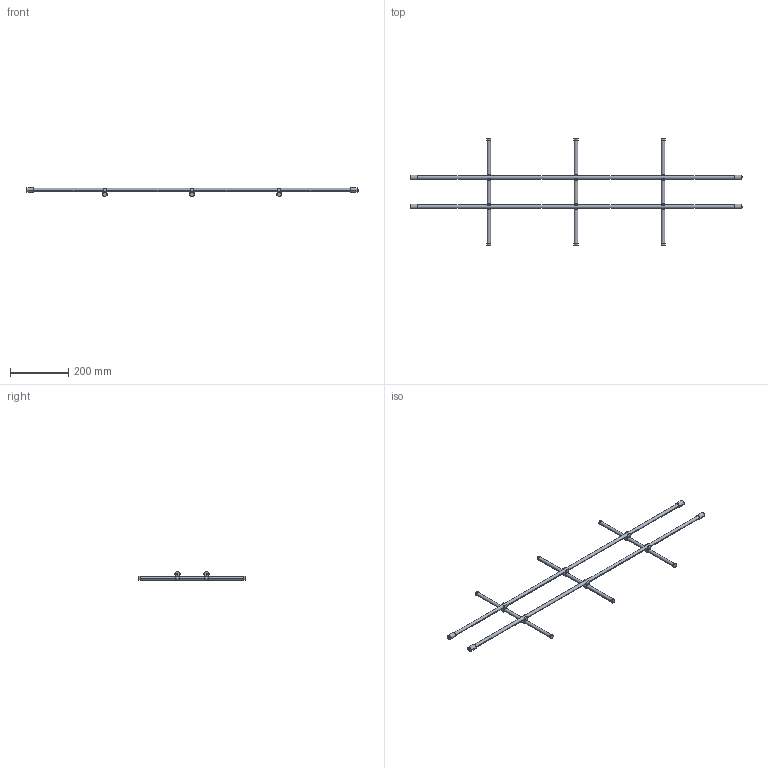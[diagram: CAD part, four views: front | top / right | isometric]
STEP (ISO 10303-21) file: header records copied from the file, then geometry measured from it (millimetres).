
FILE_DESCRIPTION (( 'STEP AP214' ), '1' );
FILE_NAME ('Magic-Classic_NL-400-KAB 1200.step', '2010-09-16T12:49:32', ( 'grass' ), ( '' ), 'SwSTEP 2.0', 'SolidWorks 2010', '' );
FILE_SCHEMA (( 'AUTOMOTIVE_DESIGN' ));
Length unit declared in the file: millimetre
Products named in the file (1): Magic-Classic_NL-400-KAB 1200
Bounding box: 1143 x 365 x 30.45 mm (x, y, z)
Volume: 406384.7 mm3; surface area: 135287 mm2
Topology: 1 solids, 1 shells, 190 faces, 534 edges, 356 vertices
Faces by surface type: plane 104, cylinder 86
Entity records: 6260 total; most frequent: DIRECTION 1136, CARTESIAN_POINT 1081, ORIENTED_EDGE 1068, EDGE_CURVE 534, AXIS2_PLACEMENT_3D 411, VERTEX_POINT 356, VECTOR 314, LINE 314
